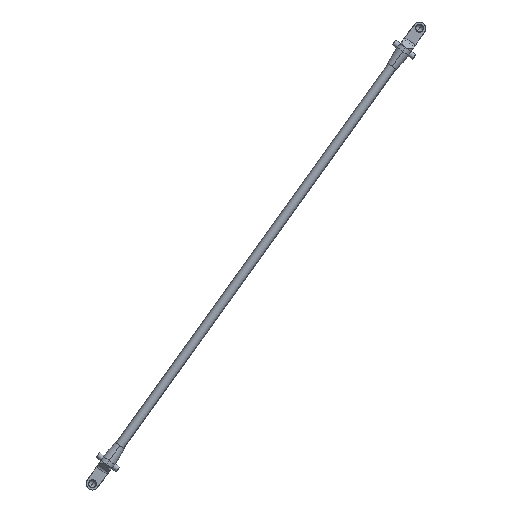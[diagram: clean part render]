
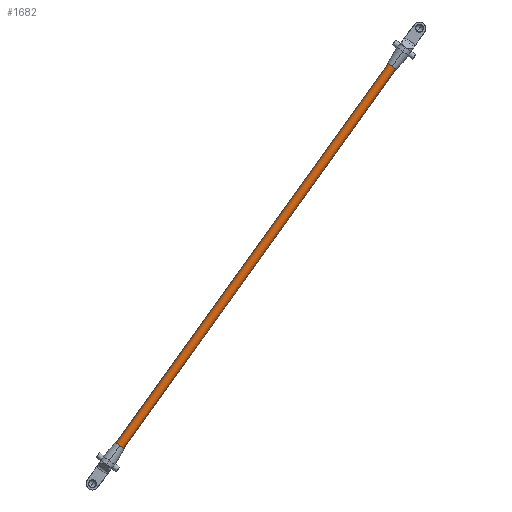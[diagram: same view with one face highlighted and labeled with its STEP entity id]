
A CAD part, front view. The second image highlights one B-rep face of the part: STEP entity #1682.
In plain terms, the highlighted cylindrical face has radius 8 mm (diameter 16 mm), a partial arc.
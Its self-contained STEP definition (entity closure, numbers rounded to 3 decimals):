
#4 = DIRECTION ( 'NONE',  ( 0., -1., 0. ) ) ;
#33 = AXIS2_PLACEMENT_3D ( 'NONE', #3633, #617, #4 ) ;
#209 = VERTEX_POINT ( 'NONE', #3737 ) ;
#405 = DIRECTION ( 'NONE',  ( 0.583, 0., 0.812 ) ) ;
#431 = VERTEX_POINT ( 'NONE', #3987 ) ;
#438 = ORIENTED_EDGE ( 'NONE', *, *, #3961, .T. ) ;
#445 = FACE_OUTER_BOUND ( 'NONE', #1079, .T. ) ;
#504 = VECTOR ( 'NONE', #3925, 1000. ) ;
#617 = DIRECTION ( 'NONE',  ( 0.583, 0., 0.812 ) ) ;
#623 = AXIS2_PLACEMENT_3D ( 'NONE', #1385, #1011, #1652 ) ;
#736 = AXIS2_PLACEMENT_3D ( 'NONE', #1633, #3783, #3429 ) ;
#1011 = DIRECTION ( 'NONE',  ( 0.583, 0., 0.812 ) ) ;
#1079 = EDGE_LOOP ( 'NONE', ( #2417, #1882, #1428, #438 ) ) ;
#1094 = CYLINDRICAL_SURFACE ( 'NONE', #623, 8. ) ;
#1199 = CARTESIAN_POINT ( 'NONE',  ( 153.398, 49.607, -751.978 ) ) ;
#1368 = CARTESIAN_POINT ( 'NONE',  ( 142.042, 57.39, -743.826 ) ) ;
#1385 = CARTESIAN_POINT ( 'NONE',  ( 147.72, 53.498, -747.902 ) ) ;
#1428 = ORIENTED_EDGE ( 'NONE', *, *, #2018, .T. ) ;
#1633 = CARTESIAN_POINT ( 'NONE',  ( 573.61, 53.5, -154.623 ) ) ;
#1652 = DIRECTION ( 'NONE',  ( 0.71, -0.486, -0.51 ) ) ;
#1682 = ADVANCED_FACE ( 'NONE', ( #445 ), #1094, .T. ) ;
#1693 = CARTESIAN_POINT ( 'NONE',  ( 579.288, 49.608, -158.699 ) ) ;
#1882 = ORIENTED_EDGE ( 'NONE', *, *, #3892, .T. ) ;
#2018 = EDGE_CURVE ( 'NONE', #3544, #3233, #2660, .T. ) ;
#2036 = CARTESIAN_POINT ( 'NONE',  ( 118.068, 49.607, -801.194 ) ) ;
#2230 = LINE ( 'NONE', #1368, #2525 ) ;
#2417 = ORIENTED_EDGE ( 'NONE', *, *, #2635, .F. ) ;
#2525 = VECTOR ( 'NONE', #405, 1000. ) ;
#2635 = EDGE_CURVE ( 'NONE', #209, #431, #2230, .T. ) ;
#2660 = LINE ( 'NONE', #1199, #504 ) ;
#3233 = VERTEX_POINT ( 'NONE', #1693 ) ;
#3257 = CIRCLE ( 'NONE', #736, 8. ) ;
#3429 = DIRECTION ( 'NONE',  ( 0., -1., 0. ) ) ;
#3544 = VERTEX_POINT ( 'NONE', #2036 ) ;
#3583 = CIRCLE ( 'NONE', #33, 8. ) ;
#3633 = CARTESIAN_POINT ( 'NONE',  ( 112.39, 53.498, -797.118 ) ) ;
#3737 = CARTESIAN_POINT ( 'NONE',  ( 106.712, 57.389, -793.042 ) ) ;
#3783 = DIRECTION ( 'NONE',  ( -0.583, 0., -0.812 ) ) ;
#3892 = EDGE_CURVE ( 'NONE', #209, #3544, #3583, .T. ) ;
#3925 = DIRECTION ( 'NONE',  ( 0.583, 0., 0.812 ) ) ;
#3961 = EDGE_CURVE ( 'NONE', #3233, #431, #3257, .T. ) ;
#3987 = CARTESIAN_POINT ( 'NONE',  ( 567.932, 57.391, -150.547 ) ) ;
